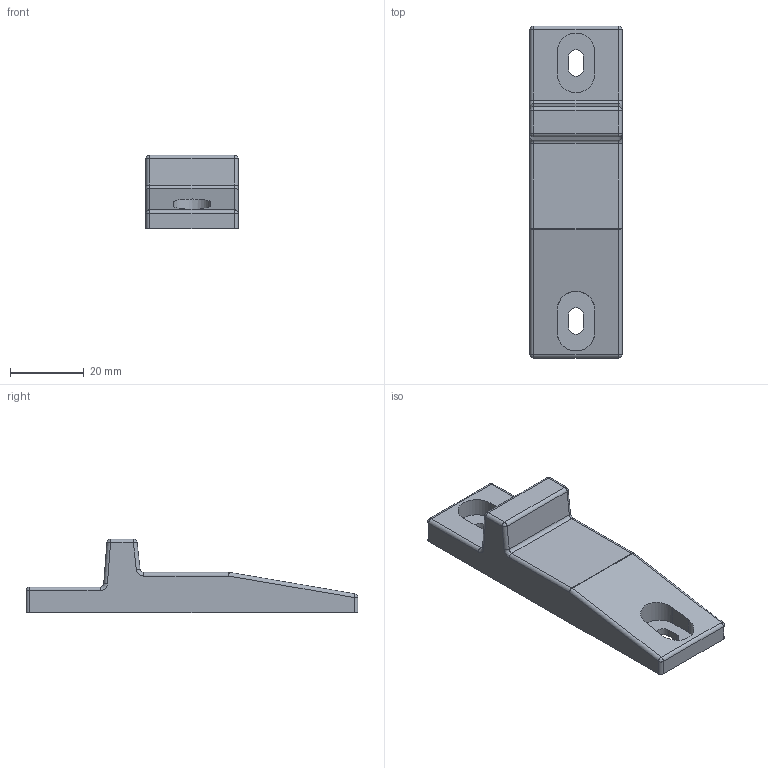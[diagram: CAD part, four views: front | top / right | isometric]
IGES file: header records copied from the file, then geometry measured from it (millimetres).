
Start section:  PTC IGES file: DFB-29.igs
Global section: file name: DFB-29.igs; native system: Creo Parametric by Parametric Technology Corporation; preprocessor: 2012360; author: xeon_3; organization: Unknown; date: 20131107.155823; units: millimetre
Bounding box: 25 x 90 x 20 mm (x, y, z)
Volume: 10194.1 mm3; surface area: 10469.6 mm2
Topology: 1 solids, 1 shells, 122 faces, 298 edges, 186 vertices
Faces by surface type: bspline 65, revolution 57
